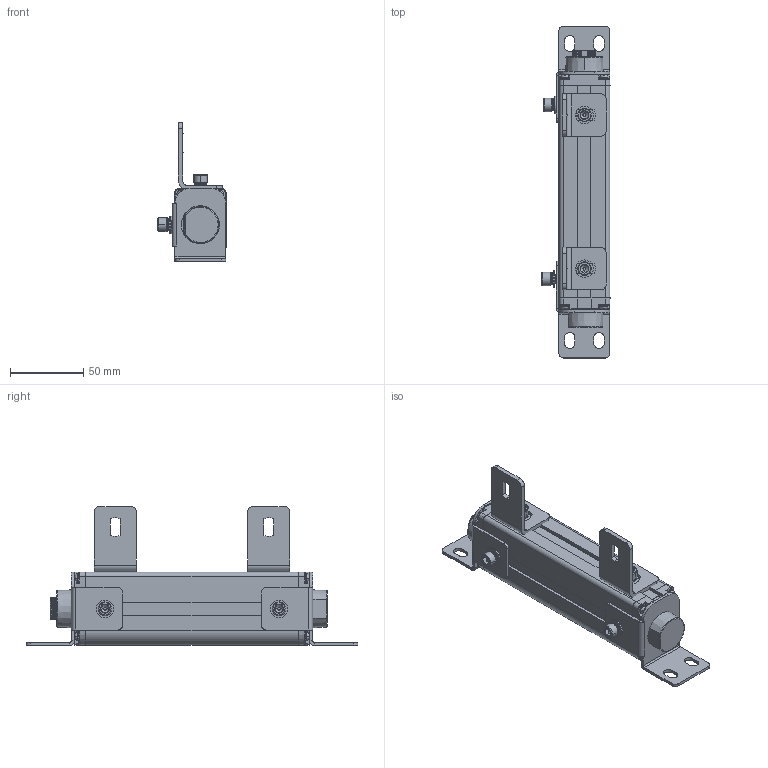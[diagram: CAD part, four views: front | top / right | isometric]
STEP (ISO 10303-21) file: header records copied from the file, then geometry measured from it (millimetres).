
FILE_DESCRIPTION((''),'2;1');
FILE_NAME('ESN--000_ASM','2021-08-10T16:37:44',('18720616900'),(''),'CREO PARAMETRIC BY PTC INC, 2019010','CREO PARAMETRIC BY PTC INC, 2019010','');
FILE_SCHEMA(('CONFIG_CONTROL_DESIGN'));
Length unit declared in the file: millimetre
Products named in the file (22): 00; 000; _0001; 4000; 4--0001; ESN_40001_ASM; L10001; M6-8--0001; M6-1--00; M6-1-00; M6-80001_ASM; L1--0001_ASM; _0002; 0005; ST-3-120001; H1--000; H1--0001_ASM; H1--0003_ASM; ESN--000_ASM
Assembly tree (34 placements, depth 4):
  ESN--000_ASM
    00
    000
    _0001
    000
    ESN_40001_ASM
      4000
      4--0001  x4
    L1--0001_ASM  x2
      L10001
      M6-80001_ASM
        M6-8--0001
        M6-1--00
        M6-1-00
        00
    _0002
    0005
    ST-3-120001  x8
    H1--0001_ASM
      H1--000
      M6-80001_ASM
        M6-8--0001
        M6-1--00
        M6-1-00
        00
    H1--0003_ASM
      H1--000
      M6-80001_ASM
        M6-8--0001
        M6-1--00
        M6-1-00
        00
Bounding box: 46.5 x 227 x 94.95 mm (x, y, z)
Volume: 283437 mm3; surface area: 91763.8 mm2
Topology: 39 solids, 39 shells, 1727 faces, 4555 edges, 2925 vertices
Faces by surface type: plane 541, cylinder 404, bspline 362, cone 291, torus 105, sphere 24
Entity records: 45714 total; most frequent: CARTESIAN_POINT 24222, ORIENTED_EDGE 4766, DIRECTION 3842, EDGE_CURVE 2383, VERTEX_POINT 1546, AXIS2_PLACEMENT_3D 1400, VECTOR 1042, LINE 1042
